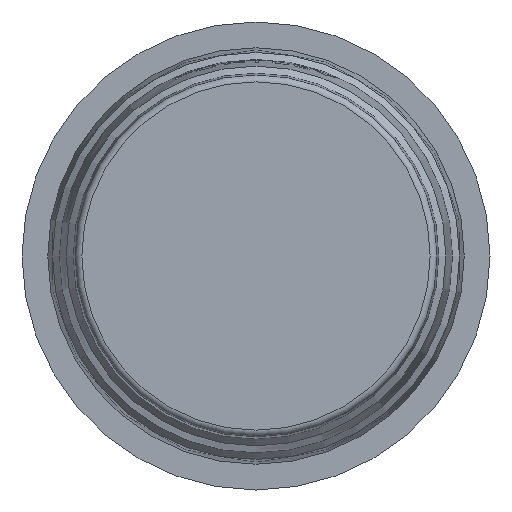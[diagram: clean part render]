
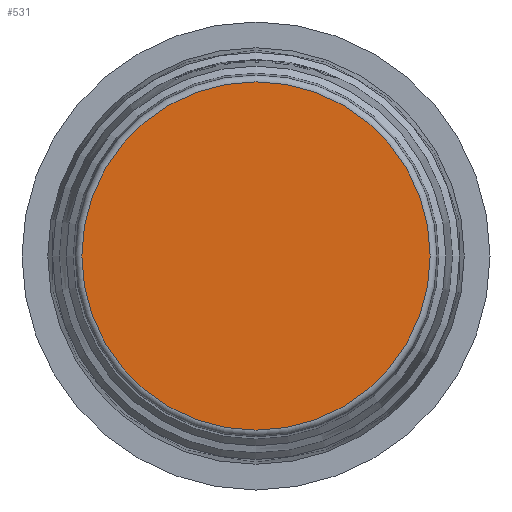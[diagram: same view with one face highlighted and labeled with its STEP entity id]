
A CAD part, front view. The second image highlights one B-rep face of the part: STEP entity #531.
In plain terms, the highlighted planar face has unit normal (0, -1, 0).
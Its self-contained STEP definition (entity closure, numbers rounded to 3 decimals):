
#531=ADVANCED_FACE('',(#1288),#1289,.T.);
#925=EDGE_CURVE('',#1801,#1801,#1802,.T.);
#1288=FACE_OUTER_BOUND('',#2944,.T.);
#1289=PLANE('',#2945);
#1801=VERTEX_POINT('',#4556);
#1802=CIRCLE('',#4557,260.51);
#2944=EDGE_LOOP('',(#5112));
#2945=AXIS2_PLACEMENT_3D('',#5113,#5114,#5115);
#4556=CARTESIAN_POINT('',(0.0,0.,-260.51));
#4557=AXIS2_PLACEMENT_3D('',#5966,#5967,#5968);
#5112=ORIENTED_EDGE('',*,*,#925,.T.);
#5113=CARTESIAN_POINT('',(0.,0.,0.0));
#5114=DIRECTION('',(0.0,-1.0,0.0));
#5115=DIRECTION('',(0.0,0.0,-1.0));
#5966=CARTESIAN_POINT('',(0.0,0.,0.0));
#5967=DIRECTION('',(0.0,-1.0,0.0));
#5968=DIRECTION('',(0.0,0.0,-1.0));
